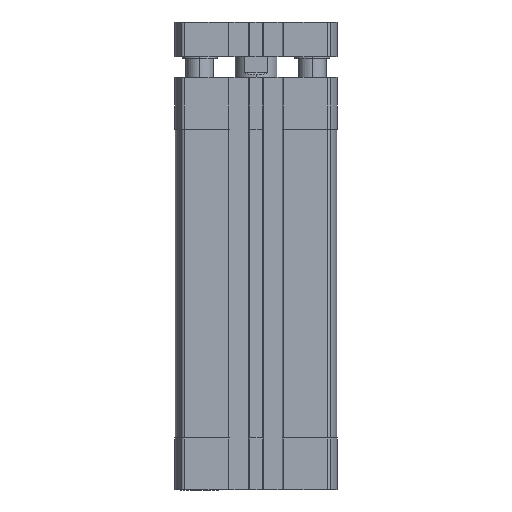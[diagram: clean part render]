
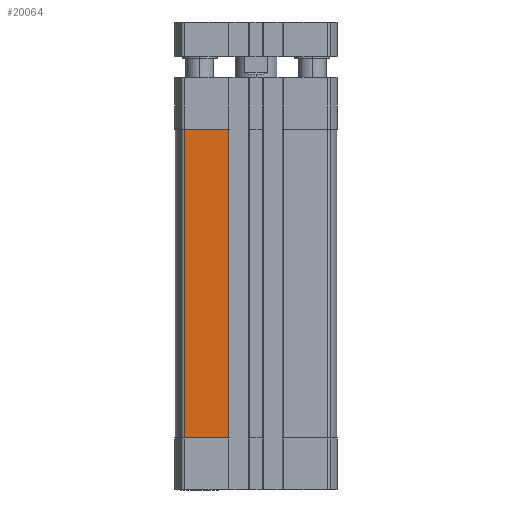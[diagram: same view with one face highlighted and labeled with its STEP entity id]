
A CAD part, front view. The second image highlights one B-rep face of the part: STEP entity #20064.
In plain terms, the highlighted planar face has unit normal (0, -1, 0) as drawn and (-1, 0, 0) by its records, which use the part's own axes.
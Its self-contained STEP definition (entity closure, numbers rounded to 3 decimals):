
#907 = LINE ( 'NONE', #13894, #5144 ) ;
#1247 = CARTESIAN_POINT ( 'NONE',  ( -23.25, 0., -15. ) ) ;
#2105 = CARTESIAN_POINT ( 'NONE',  ( -23.25, 20.543, -104. ) ) ;
#2106 = VERTEX_POINT ( 'NONE', #8651 ) ;
#3497 = LINE ( 'NONE', #2105, #16686 ) ;
#3777 = CARTESIAN_POINT ( 'NONE',  ( -23.25, 7.95, -104. ) ) ;
#3914 = VERTEX_POINT ( 'NONE', #3777 ) ;
#3924 = DIRECTION ( 'NONE',  ( 0., 0., -1. ) ) ;
#3955 = DIRECTION ( 'NONE',  ( -1., 0., 0. ) ) ;
#5144 = VECTOR ( 'NONE', #10278, 1000. ) ;
#5917 = LINE ( 'NONE', #1247, #19611 ) ;
#7018 = VECTOR ( 'NONE', #19587, 1000. ) ;
#7120 = CARTESIAN_POINT ( 'NONE',  ( -23.25, 7.95, -104. ) ) ;
#8651 = CARTESIAN_POINT ( 'NONE',  ( -23.25, 7.95, -15. ) ) ;
#8850 = EDGE_CURVE ( 'NONE', #20225, #20140, #3497, .T. ) ;
#10278 = DIRECTION ( 'NONE',  ( 0., -1., 0. ) ) ;
#10693 = LINE ( 'NONE', #7120, #7018 ) ;
#10927 = ORIENTED_EDGE ( 'NONE', *, *, #19907, .F. ) ;
#11471 = ORIENTED_EDGE ( 'NONE', *, *, #11514, .T. ) ;
#11514 = EDGE_CURVE ( 'NONE', #20140, #3914, #907, .T. ) ;
#12645 = EDGE_LOOP ( 'NONE', ( #11471, #10927, #22845, #14149 ) ) ;
#13186 = CARTESIAN_POINT ( 'NONE',  ( -23.25, 20.543, -104. ) ) ;
#13408 = CARTESIAN_POINT ( 'NONE',  ( -23.25, 20.543, -15. ) ) ;
#13894 = CARTESIAN_POINT ( 'NONE',  ( -23.25, 20.543, -104. ) ) ;
#14149 = ORIENTED_EDGE ( 'NONE', *, *, #8850, .T. ) ;
#16528 = DIRECTION ( 'NONE',  ( 0., 0., 1. ) ) ;
#16686 = VECTOR ( 'NONE', #3924, 1000. ) ;
#17922 = FACE_OUTER_BOUND ( 'NONE', #12645, .T. ) ;
#18216 = PLANE ( 'NONE',  #18879 ) ;
#18556 = EDGE_CURVE ( 'NONE', #2106, #20225, #5917, .T. ) ;
#18879 = AXIS2_PLACEMENT_3D ( 'NONE', #19877, #3955, #16528 ) ;
#19587 = DIRECTION ( 'NONE',  ( 0., 0., -1. ) ) ;
#19611 = VECTOR ( 'NONE', #22561, 1000. ) ;
#19877 = CARTESIAN_POINT ( 'NONE',  ( -23.25, 20.543, -104. ) ) ;
#19907 = EDGE_CURVE ( 'NONE', #2106, #3914, #10693, .T. ) ;
#20064 = ADVANCED_FACE ( 'NONE', ( #17922 ), #18216, .T. ) ;
#20140 = VERTEX_POINT ( 'NONE', #13186 ) ;
#20225 = VERTEX_POINT ( 'NONE', #13408 ) ;
#22561 = DIRECTION ( 'NONE',  ( 0., 1., 0. ) ) ;
#22845 = ORIENTED_EDGE ( 'NONE', *, *, #18556, .T. ) ;
